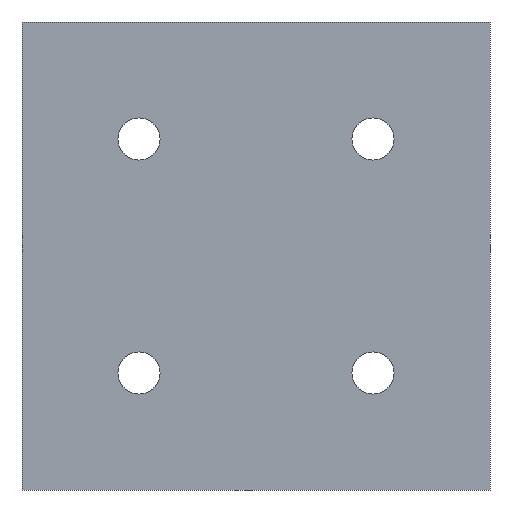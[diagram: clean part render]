
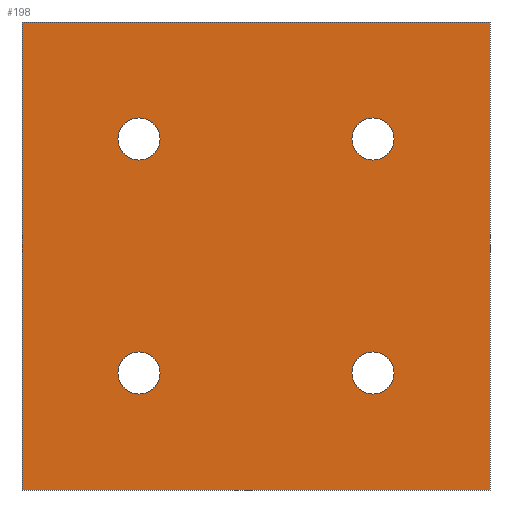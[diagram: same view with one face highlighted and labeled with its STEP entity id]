
A CAD part, front view. The second image highlights one B-rep face of the part: STEP entity #198.
In plain terms, the highlighted planar face has unit normal (0, -1, 0).
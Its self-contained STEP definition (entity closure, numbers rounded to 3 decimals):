
#19=FACE_BOUND('',#53,.T.);
#20=FACE_BOUND('',#54,.T.);
#21=FACE_BOUND('',#55,.T.);
#22=FACE_BOUND('',#56,.T.);
#28=PLANE('',#239);
#38=FACE_OUTER_BOUND('',#52,.T.);
#52=EDGE_LOOP('',(#177,#178,#179,#180));
#53=EDGE_LOOP('',(#181));
#54=EDGE_LOOP('',(#182));
#55=EDGE_LOOP('',(#183));
#56=EDGE_LOOP('',(#184));
#61=LINE('',#322,#77);
#65=LINE('',#330,#81);
#68=LINE('',#336,#84);
#71=LINE('',#341,#87);
#77=VECTOR('',#272,10.);
#81=VECTOR('',#278,10.);
#84=VECTOR('',#283,10.);
#87=VECTOR('',#288,10.);
#90=CIRCLE('',#224,2.25);
#92=CIRCLE('',#227,2.25);
#94=CIRCLE('',#230,2.25);
#96=CIRCLE('',#233,2.25);
#98=VERTEX_POINT('',#298);
#100=VERTEX_POINT('',#304);
#102=VERTEX_POINT('',#310);
#104=VERTEX_POINT('',#316);
#105=VERTEX_POINT('',#320);
#106=VERTEX_POINT('',#321);
#109=VERTEX_POINT('',#329);
#111=VERTEX_POINT('',#335);
#115=EDGE_CURVE('',#98,#98,#90,.T.);
#118=EDGE_CURVE('',#100,#100,#92,.T.);
#121=EDGE_CURVE('',#102,#102,#94,.T.);
#124=EDGE_CURVE('',#104,#104,#96,.T.);
#125=EDGE_CURVE('',#105,#106,#61,.T.);
#129=EDGE_CURVE('',#109,#105,#65,.T.);
#132=EDGE_CURVE('',#111,#109,#68,.T.);
#135=EDGE_CURVE('',#106,#111,#71,.T.);
#177=ORIENTED_EDGE('',*,*,#135,.F.);
#178=ORIENTED_EDGE('',*,*,#125,.F.);
#179=ORIENTED_EDGE('',*,*,#129,.F.);
#180=ORIENTED_EDGE('',*,*,#132,.F.);
#181=ORIENTED_EDGE('',*,*,#124,.F.);
#182=ORIENTED_EDGE('',*,*,#121,.F.);
#183=ORIENTED_EDGE('',*,*,#118,.F.);
#184=ORIENTED_EDGE('',*,*,#115,.F.);
#198=ADVANCED_FACE('',(#38,#19,#20,#21,#22),#28,.F.);
#224=AXIS2_PLACEMENT_3D('',#300,#247,#248);
#227=AXIS2_PLACEMENT_3D('',#306,#254,#255);
#230=AXIS2_PLACEMENT_3D('',#312,#261,#262);
#233=AXIS2_PLACEMENT_3D('',#318,#268,#269);
#239=AXIS2_PLACEMENT_3D('',#344,#292,#293);
#247=DIRECTION('center_axis',(0.,-1.,0.));
#248=DIRECTION('ref_axis',(1.,0.,0.));
#254=DIRECTION('center_axis',(0.,-1.,0.));
#255=DIRECTION('ref_axis',(1.,0.,0.));
#261=DIRECTION('center_axis',(0.,-1.,0.));
#262=DIRECTION('ref_axis',(1.,0.,0.));
#268=DIRECTION('center_axis',(0.,-1.,0.));
#269=DIRECTION('ref_axis',(1.,0.,0.));
#272=DIRECTION('',(0.,0.,-1.));
#278=DIRECTION('',(1.,0.,0.));
#283=DIRECTION('',(0.,0.,1.));
#288=DIRECTION('',(-1.,0.,0.));
#292=DIRECTION('center_axis',(0.,1.,0.));
#293=DIRECTION('ref_axis',(0.,0.,1.));
#298=CARTESIAN_POINT('',(-14.75,0.,-12.5));
#300=CARTESIAN_POINT('Origin',(-12.5,0.,-12.5));
#304=CARTESIAN_POINT('',(-14.75,0.,-37.5));
#306=CARTESIAN_POINT('Origin',(-12.5,0.,-37.5));
#310=CARTESIAN_POINT('',(-39.75,0.,-12.5));
#312=CARTESIAN_POINT('Origin',(-37.5,0.,-12.5));
#316=CARTESIAN_POINT('',(-39.75,0.,-37.5));
#318=CARTESIAN_POINT('Origin',(-37.5,0.,-37.5));
#320=CARTESIAN_POINT('',(0.,0.,0.));
#321=CARTESIAN_POINT('',(0.,0.,-50.));
#322=CARTESIAN_POINT('',(0.,0.,0.));
#329=CARTESIAN_POINT('',(-50.,0.,0.));
#330=CARTESIAN_POINT('',(-50.,0.,0.));
#335=CARTESIAN_POINT('',(-50.,0.,-50.));
#336=CARTESIAN_POINT('',(-50.,0.,-50.));
#341=CARTESIAN_POINT('',(0.,0.,-50.));
#344=CARTESIAN_POINT('Origin',(-25.,0.,-25.));
